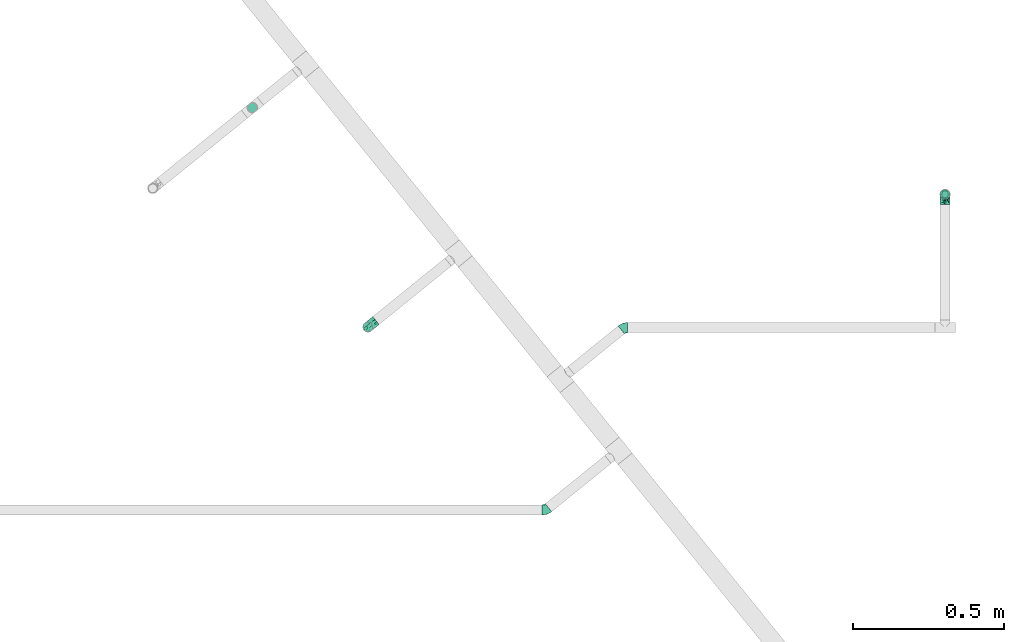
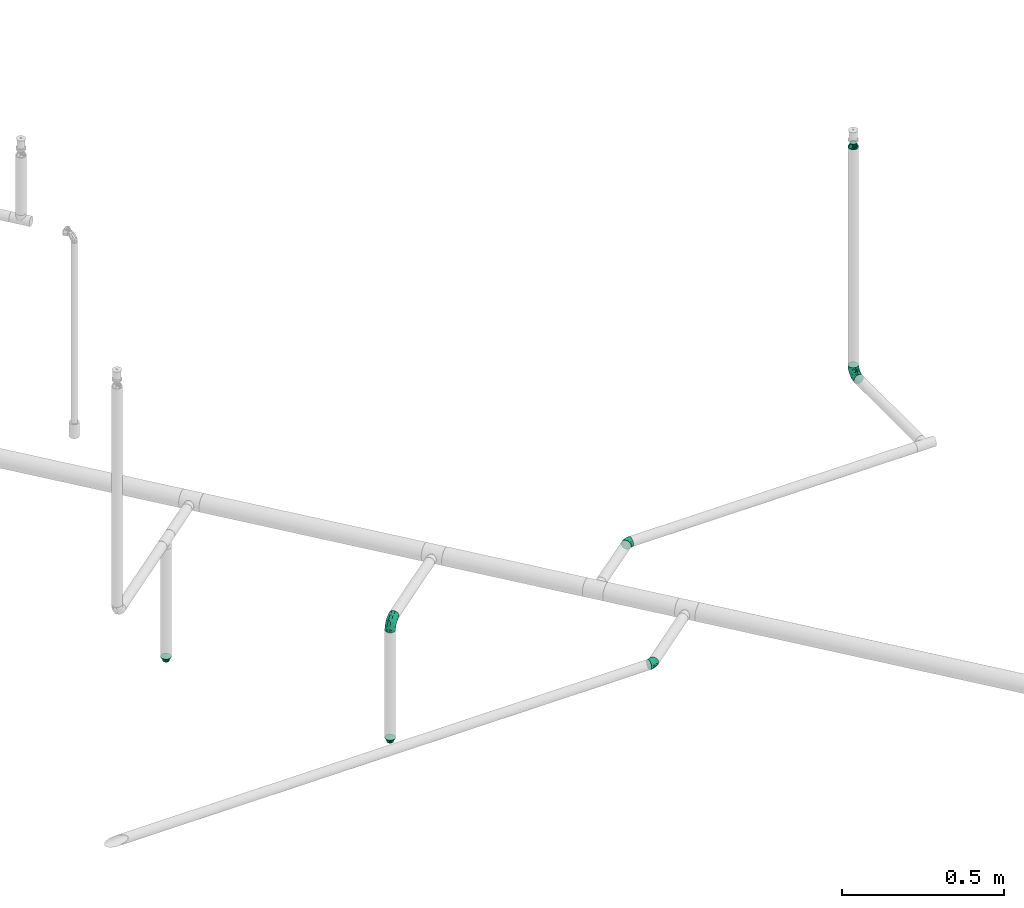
# One storey, part 70 of 94: 7 flow fittings.
"""IFC2X3 building model written with IfcOpenShell, lengths in millimetres."""

from ifc_helpers import new_model, entity, si_unit, converted_unit, derived_unit, direction, frame, origin_with_axes, place, context, subcontext, project, spatial, open_shell, surface_model, source, transform, mapped, type_object, element, save


model = new_model("IFC2X3")

# Units and contexts
model_context = context("Model", 3, precision=0.01, world=frame((0.0, 4.29681676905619e-09, 0.0)), true_north=direction((4.01073788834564e-13, 1.0)))
plan_context = context("Plan", 3, precision=0.01, world=frame((0.0, 4.29681676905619e-09, 0.0)), true_north=direction((4.01073788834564e-13, 1.0)))
body_context = subcontext(model_context, "Body", "Model", "MODEL_VIEW")
ifc_project = project(units=[converted_unit("PLANEANGLEUNIT", "DEGREE", entity("IfcPositiveLengthMeasure", 0.0174532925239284), si_unit("PLANEANGLEUNIT", "RADIAN"), dimensions=[0, 0, 0, 0, 0, 0, 0]), si_unit("AREAUNIT", "SQUARE_METRE"), si_unit("LENGTHUNIT", "METRE", prefix="MILLI"), si_unit("MASSUNIT", "GRAM", prefix="KILO"), si_unit("POWERUNIT", "WATT"), si_unit("PRESSUREUNIT", "PASCAL", prefix="KILO"), si_unit("FORCEUNIT", "NEWTON", prefix="KILO"), si_unit("ELECTRICVOLTAGEUNIT", "VOLT"), si_unit("ELECTRICCURRENTUNIT", "AMPERE"), si_unit("THERMODYNAMICTEMPERATUREUNIT", "DEGREE_CELSIUS"), si_unit("TIMEUNIT", "SECOND"), si_unit("VOLUMEUNIT", "CUBIC_METRE"), derived_unit("LINEARVELOCITYUNIT", [(si_unit("LENGTHUNIT", "METRE"), 1), (si_unit("TIMEUNIT", "SECOND"), -1)]), derived_unit("VOLUMETRICFLOWRATEUNIT", [(si_unit("VOLUMEUNIT", "CUBIC_METRE"), 1), (si_unit("TIMEUNIT", "SECOND"), -1)]), derived_unit("THERMALTRANSMITTANCEUNIT", [(si_unit("POWERUNIT", "WATT"), 1), (si_unit("THERMODYNAMICTEMPERATUREUNIT", "KELVIN"), -1), (si_unit("AREAUNIT", "SQUARE_METRE"), -1)]), derived_unit("SOUNDPRESSUREUNIT", [(si_unit("PRESSUREUNIT", "PASCAL"), 1)])], contexts=[model_context, plan_context])

# Site, building, storey
site_placement = place(None, frame((0.0, -4.29681676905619e-09, 0.0), z_axis=(0.0, 0.0, 1.0), x_axis=(1.0, 0.0, 0.0)))
site = spatial("IfcSite", under=ifc_project, at=site_placement, CompositionType="ELEMENT")
building_placement = place(site_placement, frame((0.0, 4.29681676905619e-09, 0.0), z_axis=(0.0, 0.0, 1.0), x_axis=(1.0, 0.0, 0.0)))
building = spatial("IfcBuilding", under=site, at=building_placement, Name="mc-building", CompositionType="ELEMENT")
storey_placement = place(building_placement, frame((0.0, 0.0, 210900.0), z_axis=(0.0, 0.0, 1.0), x_axis=(1.0, 0.0, 0.0)))
storey = spatial("IfcBuildingStorey", under=building, at=storey_placement, Name="Nivå F", CompositionType="ELEMENT", Elevation=210900.0)

# Flow fittings
pipe_fitting_type_1 = type_object("IfcPipeFittingType", Name="magi_pipe_fe_reducer_centric_short_NOR", PredefinedType="TRANSITION")
shared_shape_1 = source(origin_with_axes(), body_context, "Body", "SurfaceModel", [
    surface_model("IfcShellBasedSurfaceModel", [(14.4, 5.35, -9.26647), (14.4, 0.0, -10.7), (14.4, 2.76936, -10.33541), (14.4, 10.33541, -2.76936), (14.4, 7.56604, -7.56604), (14.4, -10.33541, -2.76936), (14.4, 9.26647, -5.35), (14.4, 0.0, 10.7), (14.4, -5.35, -9.26647), (14.4, -2.76936, -10.33541), (14.4, -7.56604, -7.56604), (14.4, -9.26647, -5.35), (14.4, 10.7, 0.0), (14.4, 10.33541, 2.76936), (14.4, 9.26647, 5.35), (14.4, 7.56604, 7.56604), (14.4, 2.76936, 10.33541), (14.4, 5.35, 9.26647), (14.4, -10.33541, 2.76936), (14.4, -7.56604, 7.56604), (14.4, -9.26647, 5.35), (14.4, -10.7, 0.0), (14.4, -2.76936, 10.33541), (14.4, -5.35, 9.26647), (12.4, 2.76936, 10.33541), (12.4, -10.33541, -2.76936), (12.4, 0.0, 10.7), (12.4, 5.35, 9.26647), (12.4, 7.56604, 7.56604), (12.4, 9.26647, 5.35), (12.4, 10.33541, 2.76936), (12.4, -10.33541, 2.76936), (12.4, -2.76936, 10.33541), (12.4, -7.56604, 7.56604), (12.4, -5.35, 9.26647), (12.4, -9.26647, 5.35), (12.4, -10.7, 0.0), (12.4, 10.33541, -2.76936), (12.4, 5.35, -9.26647), (12.4, 9.26647, -5.35), (12.4, 7.56604, -7.56604), (12.4, 2.76936, -10.33541), (12.4, -9.26647, -5.35), (12.4, -5.35, -9.26647), (12.4, -7.56604, -7.56604), (12.4, 0.0, -10.7), (12.4, -2.76936, -10.33541), (12.4, 10.7, 0.0), (-2.0, 11.9501, 11.9501), (-2.0, 0.0, 16.9), (-2.0, 4.37404, 16.32415), (-2.0, 8.45, 14.63583), (-2.0, 14.63583, 8.45), (-2.0, 16.32415, 4.37404), (-2.0, -16.32415, 4.37404), (-2.0, -8.45, 14.63583), (-2.0, -14.63583, 8.45), (-2.0, -11.9501, 11.9501), (-2.0, -4.37404, 16.32415), (-2.0, -16.32415, -4.37404), (-2.0, -16.9, 0.0), (-2.0, -8.45, -14.63583), (-2.0, 16.32415, -4.37404), (-2.0, 11.9501, -11.9501), (-2.0, 14.63583, -8.45), (-2.0, 8.45, -14.63583), (-2.0, 4.37404, -16.32415), (-2.0, 0.0, -16.9), (-2.0, -11.9501, -11.9501), (-2.0, -14.63583, -8.45), (-2.0, -4.37404, -16.32415), (-2.0, 16.9, 0.0), (0.0, 4.37404, -16.32415), (0.0, 8.45, -14.63583), (0.0, 11.9501, -11.9501), (0.0, 0.0, -16.9), (0.0, 16.32415, -4.37404), (0.0, 16.32415, 4.37404), (0.0, 14.63583, -8.45), (0.0, -8.45, -14.63583), (0.0, -4.37404, -16.32415), (0.0, -11.9501, -11.9501), (0.0, -16.32415, -4.37404), (0.0, -14.63583, -8.45), (0.0, -16.32415, 4.37404), (0.0, 16.9, 0.0), (0.0, 14.63583, 8.45), (0.0, 11.9501, 11.9501), (0.0, 4.37404, 16.32415), (0.0, 8.45, 14.63583), (0.0, 0.0, 16.9), (0.0, -14.63583, 8.45), (0.0, -16.9, 0.0), (0.0, -8.45, 14.63583), (0.0, -11.9501, 11.9501), (0.0, -4.37404, 16.32415), (12.4, 9.3625, -2.31662), (0.0, 14.42505, -5.97505), (0.0, 15.66253, -2.98753), (12.4, -6.6875, -6.94985), (0.0, -13.18758, -8.96258), (0.0, 2.98753, -15.66253), (12.4, 0.0, -9.26647), (12.4, 6.6875, -6.94985), (0.0, 8.96258, -13.18758), (12.4, -9.3625, -2.31662), (0.0, -15.66253, -2.98753), (0.0, -14.42505, -5.97505), (0.0, 5.97505, -14.42505), (0.0, -2.98753, -15.66253), (0.0, -8.96258, -13.18758), (0.0, 13.18758, -8.96258), (12.4, 8.025, -4.63324), (12.4, -2.675, -9.26647), (12.4, 2.675, -9.26647), (0.0, -5.97505, -14.42505), (12.4, -8.025, -4.63324), (12.4, -9.3625, 2.31662), (0.0, -14.42505, 5.97505), (0.0, -15.66253, 2.98753), (12.4, 6.6875, 6.94985), (0.0, 13.18758, 8.96258), (0.0, -2.98753, 15.66253), (12.4, 0.0, 9.26647), (12.4, -6.6875, 6.94985), (0.0, -8.96258, 13.18758), (12.4, 9.3625, 2.31662), (0.0, 15.66253, 2.98753), (0.0, 14.42505, 5.97505), (0.0, -5.97505, 14.42505), (0.0, 2.98753, 15.66253), (0.0, 8.96258, 13.18758), (0.0, -13.18758, 8.96258), (12.4, -8.025, 4.63324), (12.4, 2.675, 9.26647), (12.4, -2.675, 9.26647), (0.0, 5.97505, 14.42505), (12.4, 8.025, 4.63324)], [open_shell([[[0, 1, 2]], [[3, 0, 4]], [[5, 0, 3]], [[3, 4, 6]], [[7, 5, 3]], [[1, 8, 9]], [[1, 0, 8]], [[10, 5, 11]], [[5, 10, 8]], [[0, 5, 8]], [[3, 12, 13]], [[13, 14, 15]], [[13, 15, 16]], [[7, 3, 16]], [[16, 15, 17]], [[7, 18, 5]], [[18, 19, 20]], [[21, 5, 18]], [[19, 22, 23]], [[22, 19, 18]], [[7, 22, 18]], [[13, 16, 3]], [[24, 25, 26]], [[27, 25, 24]], [[28, 29, 30]], [[28, 25, 27]], [[31, 26, 25]], [[32, 33, 34]], [[33, 32, 31]], [[33, 31, 35]], [[32, 26, 31]], [[31, 25, 36]], [[30, 37, 28]], [[25, 28, 37]], [[38, 37, 39]], [[37, 38, 25]], [[38, 39, 40]], [[41, 25, 38]], [[42, 43, 44]], [[43, 42, 25]], [[43, 45, 46]], [[43, 25, 41]], [[41, 45, 43]], [[37, 30, 47]], [[25, 5, 36]], [[42, 11, 25]], [[8, 44, 43]], [[42, 44, 10]], [[9, 43, 46]], [[25, 11, 5]], [[5, 21, 36]], [[9, 8, 43]], [[10, 44, 8]], [[10, 11, 42]], [[1, 9, 46]], [[46, 45, 1]], [[41, 2, 45]], [[38, 0, 41]], [[6, 40, 39]], [[38, 40, 4]], [[3, 39, 37]], [[38, 4, 0]], [[0, 2, 41]], [[12, 3, 37]], [[6, 39, 3]], [[6, 4, 40]], [[47, 12, 37]], [[45, 2, 1]], [[30, 13, 47]], [[29, 14, 30]], [[17, 28, 27]], [[29, 28, 15]], [[16, 27, 24]], [[30, 14, 13]], [[13, 12, 47]], [[16, 17, 27]], [[15, 28, 17]], [[15, 14, 29]], [[7, 16, 24]], [[24, 26, 7]], [[32, 22, 26]], [[34, 23, 32]], [[20, 33, 35]], [[34, 33, 19]], [[18, 35, 31]], [[34, 19, 23]], [[23, 22, 32]], [[21, 18, 31]], [[20, 35, 18]], [[20, 19, 33]], [[36, 21, 31]], [[26, 22, 7]], [[48, 49, 50]], [[48, 50, 51]], [[48, 52, 53]], [[48, 53, 49]], [[49, 53, 54]], [[55, 56, 57]], [[55, 58, 49]], [[56, 55, 49]], [[49, 54, 56]], [[54, 59, 60]], [[54, 53, 61]], [[53, 62, 63]], [[63, 62, 64]], [[63, 65, 66]], [[61, 53, 63]], [[67, 63, 66]], [[59, 68, 69]], [[68, 59, 61]], [[61, 67, 70]], [[59, 54, 61]], [[63, 67, 61]], [[53, 71, 62]], [[72, 73, 74]], [[75, 72, 74]], [[74, 76, 77]], [[76, 74, 78]], [[74, 77, 79]], [[75, 79, 80]], [[75, 74, 79]], [[81, 82, 83]], [[82, 81, 79]], [[79, 84, 82]], [[77, 76, 85]], [[77, 86, 87]], [[77, 87, 88]], [[88, 84, 79]], [[88, 87, 89]], [[84, 88, 90]], [[90, 91, 84]], [[92, 82, 84]], [[91, 93, 94]], [[91, 90, 93]], [[93, 90, 95]], [[79, 77, 88]], [[59, 82, 60]], [[69, 83, 59]], [[79, 68, 61]], [[69, 68, 81]], [[80, 61, 70]], [[59, 83, 82]], [[82, 92, 60]], [[80, 79, 61]], [[81, 68, 79]], [[81, 83, 69]], [[75, 80, 70]], [[70, 67, 75]], [[66, 72, 67]], [[65, 73, 66]], [[78, 63, 64]], [[65, 63, 74]], [[76, 64, 62]], [[65, 74, 73]], [[73, 72, 66]], [[85, 76, 62]], [[78, 64, 76]], [[78, 74, 63]], [[71, 85, 62]], [[67, 72, 75]], [[53, 77, 71]], [[52, 86, 53]], [[89, 48, 51]], [[52, 48, 87]], [[88, 51, 50]], [[53, 86, 77]], [[77, 85, 71]], [[88, 89, 51]], [[87, 48, 89]], [[87, 86, 52]], [[90, 88, 50]], [[50, 49, 90]], [[58, 95, 49]], [[55, 93, 58]], [[91, 57, 56]], [[55, 57, 94]], [[84, 56, 54]], [[55, 94, 93]], [[93, 95, 58]], [[92, 84, 54]], [[91, 56, 84]], [[91, 94, 57]], [[60, 92, 54]], [[49, 95, 90]], [[27, 34, 47]], [[47, 34, 43]], [[43, 38, 47]], [[43, 34, 36]], [[90, 87, 94]], [[92, 94, 87]], [[87, 74, 92]], [[75, 92, 74]], [[81, 92, 75]], [[74, 87, 85]], [[96, 97, 98]], [[81, 99, 100]], [[101, 102, 75]], [[98, 85, 47]], [[74, 103, 104]], [[104, 103, 38]], [[105, 106, 107]], [[38, 108, 104]], [[102, 109, 75]], [[110, 99, 81]], [[47, 96, 98]], [[103, 111, 112]], [[109, 102, 113]], [[36, 92, 106]], [[102, 101, 114]], [[110, 115, 43]], [[96, 112, 97]], [[107, 116, 105]], [[36, 106, 105]], [[113, 115, 109]], [[43, 115, 113]], [[116, 107, 100]], [[108, 38, 114]], [[111, 103, 74]], [[111, 97, 112]], [[99, 110, 43]], [[116, 100, 99]], [[101, 108, 114]], [[117, 118, 119]], [[87, 120, 121]], [[122, 123, 90]], [[119, 92, 36]], [[94, 124, 125]], [[125, 124, 34]], [[126, 127, 128]], [[34, 129, 125]], [[123, 130, 90]], [[131, 120, 87]], [[36, 117, 119]], [[124, 132, 133]], [[130, 123, 134]], [[47, 85, 127]], [[123, 122, 135]], [[131, 136, 27]], [[117, 133, 118]], [[128, 137, 126]], [[47, 127, 126]], [[134, 136, 130]], [[27, 136, 134]], [[137, 128, 121]], [[129, 34, 135]], [[132, 124, 94]], [[132, 118, 133]], [[120, 131, 27]], [[137, 121, 120]], [[122, 129, 135]]])]),
])
for number, where, z_axis, x_axis, name in (
    (1, (726826.19319, 441839.19005, 3059.35200000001), (-0.000893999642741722, -0.99999960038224, 0.0), (0.0, 0.0, -1.0), "magi_pipe_fe_reducer_centric_short_NOR"),
    (2, (727207.79471, 441114.63274, 3059.35200000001), (-0.000893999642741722, -0.99999960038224, 0.0), (0.0, 0.0, -1.0), "magi_pipe_fe_reducer_centric_short_NOR"),
    (3, (729113.64461, 441552.69714, 4357.64799999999), (-0.000893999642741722, -0.99999960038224, 0.0), (0.0, 0.0, 1.0), "magi_pipe_fe_reducer_centric_short_NOR"),
):
    element("IfcFlowFitting", number, at=place(storey_placement, frame(where, z_axis=z_axis, x_axis=x_axis)), inside=storey, type_object=pipe_fitting_type_1, Name=name, context=body_context, shape_type="MappedRepresentation", body=[
        mapped(shared_shape_1, transform((0.0, 0.0, 0.0), scale=1.0)),
    ])
pipe_fitting_type_2 = type_object("IfcPipeFittingType", Name="magi_pipe_fe_elbow_short_001", PredefinedType="BEND")
shared_shape_2 = source(origin_with_axes(), body_context, "Body", "SurfaceModel", [
    surface_model("IfcShellBasedSurfaceModel", [(-33.8, 8.45, -14.63583), (-33.8, 4.37404, -16.32415), (-33.8, 11.9501, -11.9501), (-33.8, -11.9501, -11.9501), (-33.8, -14.63583, -8.45), (-33.8, -8.45, -14.63583), (-33.8, 0.0, -16.9), (-33.8, -4.37404, -16.32415), (-33.8, -4.37404, 16.32415), (-33.8, 0.0, 16.9), (-33.8, -8.45, 14.63583), (-33.8, 16.32415, -4.37404), (-33.8, 14.63583, -8.45), (-33.8, -16.32415, -4.37404), (-33.8, -16.9, 0.0), (-33.8, -16.32415, 4.37404), (-33.8, 11.9501, 11.9501), (-33.8, 14.63583, 8.45), (-33.8, 16.32415, 4.37404), (-33.8, 4.37404, 16.32415), (-33.8, 8.45, 14.63583), (-33.8, -14.63583, 8.45), (-33.8, -11.9501, 11.9501), (-33.8, 16.9, 0.0), (-11.9501, 33.8, -11.9501), (0.0, 33.8, -16.9), (-4.37404, 33.8, -16.32415), (-8.45, 33.8, -14.63583), (-14.63583, 33.8, -8.45), (-16.32415, 33.8, -4.37404), (14.63583, 33.8, -8.45), (8.45, 33.8, 14.63583), (16.32415, 33.8, -4.37404), (8.45, 33.8, -14.63583), (11.9501, 33.8, -11.9501), (4.37404, 33.8, -16.32415), (16.32415, 33.8, 4.37404), (16.9, 33.8, 0.0), (-11.9501, 33.8, 11.9501), (-16.32415, 33.8, 4.37404), (-14.63583, 33.8, 8.45), (-8.45, 33.8, 14.63583), (-4.37404, 33.8, 16.32415), (11.9501, 33.8, 11.9501), (14.63583, 33.8, 8.45), (0.0, 33.8, 16.9), (4.37404, 33.8, 16.32415), (-16.9, 33.8, 0.0), (-24.79389, -13.12945, 9.48721), (-22.19287, -9.75018, 12.59315), (-24.09897, -14.97035, 0.0), (-14.93934, -10.76256, 8.5297), (-22.46095, -14.75051, 5.27077), (14.75051, 22.46094, 5.27077), (11.9251, 13.23888, 4.33236), (13.04069, 14.39795, 0.0), (7.71387, 13.68847, 11.55891), (9.75018, 22.19287, 12.59315), (4.10169, 13.0571, 14.04018), (-24.84007, -6.39063, 15.2048), (-25.81779, -2.23879, 16.61097), (-23.66549, 2.59054, 16.87119), (-26.50418, 14.06512, 11.08152), (-24.21253, 17.66365, 7.72657), (-29.58514, 15.86957, 7.00283), (-6.17382, -7.5455, 0.0), (-13.23888, -11.9251, 4.33236), (-14.39795, -13.04069, 0.0), (-17.81434, 18.87373, 11.97104), (-6.30846, 29.15138, 15.82987), (-2.31622, 25.28002, 16.85849), (-29.23923, 10.23435, 13.77053), (-1.45439, -2.85688, 7.61475), (-0.28326, 0.34872, 10.09509), (-5.74484, -4.04709, 10.4122), (-4.41137, 11.31918, 16.59407), (-8.39727, 3.10034, 15.7812), (-1.72649, 9.1306, 15.53089), (-17.39909, 24.75344, 7.64977), (-26.19233, 20.0512, 0.0), (-28.14518, 17.29657, 4.25857), (-26.05147, 6.6281, 15.96447), (-5.87354, 16.61944, 16.86968), (-12.51807, 12.51807, 16.48937), (-10.06312, 7.38516, 16.81295), (-3.01882, 3.01882, 13.81718), (-13.0571, -4.10169, 14.04018), (-16.82553, -0.15166, 16.38038), (10.76256, 14.93934, 8.5297), (13.12945, 24.79389, 9.48721), (6.39063, 24.84007, 15.2048), (2.23879, 25.81779, 16.61097), (-13.68847, -7.71387, 11.55891), (14.97035, 24.09897, 0.0), (-7.30894, 22.89991, 16.09489), (-10.67958, 26.17414, 14.008), (-12.78295, 18.26924, 15.06066), (-13.88562, 22.45231, 12.93244), (-18.04944, 15.16501, 14.04434), (-23.11658, 20.08178, 4.02986), (-21.84989, 21.84989, 0.0), (-18.55817, 25.48277, 3.93065), (-13.95142, 26.94732, 11.03289), (-18.57098, 7.23906, 16.59756), (-16.58335, 4.14122, 16.89279), (-17.96666, 11.46709, 15.63151), (-9.84453, 17.54304, 16.18938), (0.15166, 16.82553, 16.38038), (-23.27207, 11.47201, 14.23154), (3.84842, 5.86994, 10.70473), (-8.0212, -7.54413, 7.93275), (1.00345, -2.19508, 4.57414), (5.13203, 3.01004, 5.90201), (5.24161, 1.7543, 2.53265), (8.70457, 7.04947, 3.99182), (-20.0512, 26.19233, 0.0), (8.4852, 8.76699, 7.09296), (-4.55488, -6.72064, 4.90681), (2.05031, -2.05031, 0.0), (7.5455, 6.17382, 0.0), (-26.75399, 2.1369, -16.845), (-14.61995, 24.73803, -11.27736), (-28.45274, -13.45335, -9.81895), (-26.00469, 6.63555, -15.96645), (-23.06726, 20.04573, -4.26202), (-13.80647, -4.26506, -14.17873), (-14.67501, -0.21081, -16.07388), (-6.7902, -0.2828, -13.8478), (-24.53586, 11.08096, -14.13417), (-26.72048, 14.00837, -11.05776), (10.0967, 24.44989, -12.75976), (5.83237, 21.40218, -15.03047), (6.66249, 28.54238, -15.38093), (-20.38182, 15.48705, -12.74596), (12.53268, 21.23441, -9.15363), (12.54494, 15.67504, -5.54878), (9.7522, 12.89279, -8.66343), (-15.65186, 19.64213, -13.01327), (-12.03528, 20.66498, -14.67665), (-15.61907, 15.61906, -14.83879), (-25.56551, -15.26206, 0.0), (-24.65452, -15.12934, -5.50955), (13.45335, 28.45274, -9.81895), (15.12934, 24.65452, -5.50955), (-7.35442, -8.31014, -5.65563), (-15.67504, -12.54494, -5.54878), (-24.44989, -10.0967, -12.75976), (0.16522, 0.41303, -9.71728), (-5.70658, -5.33066, -8.89288), (-5.13869, -2.37198, -11.53565), (-21.23441, -12.53268, -9.15363), (0.71146, 7.93863, -14.09382), (0.21081, 14.67501, -16.07388), (3.49291, 14.42772, -14.76381), (-24.89911, -2.13088, -16.591), (-28.54238, -6.66249, -15.38093), (-18.44386, -7.71663, -13.26957), (2.13088, 24.89911, -16.591), (-28.64342, 17.44413, -2.89318), (1.70017, -1.28722, -5.09504), (-16.57067, 26.81947, -7.36596), (-17.69055, 27.4263, -3.76405), (-12.89279, -9.7522, -8.66343), (-5.96611, 5.96611, -15.95814), (-20.53709, 20.09345, -8.28985), (-2.1369, 26.75399, -16.845), (-6.89872, 24.58781, -16.02578), (-10.60739, 26.53157, -13.98044), (-21.40218, -5.83237, -15.03047), (2.93192, 5.89627, -11.55917), (6.89393, 12.61842, -11.82233), (5.58056, 5.95325, -8.79455), (-3.99512, 18.61798, -16.89635), (8.31014, 7.35442, -5.65563), (-9.1383, 9.86148, -16.89041), (-9.99983, 16.02119, -16.39699), (-16.68576, 9.78031, -16.34199), (-27.01915, 16.61158, -7.12979), (15.26206, 25.56551, 0.0), (-18.61798, 3.99512, -16.89635), (-19.37495, 27.82495, 0.0), (-12.61842, -6.89393, -11.82233), (-18.84705, 19.14018, -10.96545)], [open_shell([[[0, 1, 2]], [[3, 4, 5]], [[6, 7, 5]], [[8, 9, 10]], [[1, 6, 2]], [[11, 12, 2]], [[4, 2, 6]], [[2, 13, 10]], [[5, 4, 6]], [[2, 4, 13]], [[14, 15, 13]], [[11, 2, 16]], [[11, 17, 18]], [[11, 16, 17]], [[19, 20, 16]], [[16, 2, 10]], [[19, 16, 10]], [[21, 22, 15]], [[22, 13, 15]], [[22, 10, 13]], [[10, 9, 19]], [[11, 18, 23]], [[24, 25, 26]], [[24, 26, 27]], [[24, 28, 29]], [[25, 24, 30]], [[31, 32, 24]], [[33, 30, 34]], [[33, 35, 25]], [[25, 30, 33]], [[32, 30, 24]], [[32, 36, 37]], [[38, 24, 29]], [[39, 40, 29]], [[40, 38, 29]], [[38, 41, 42]], [[38, 31, 24]], [[31, 38, 42]], [[36, 43, 44]], [[36, 32, 43]], [[31, 45, 46]], [[32, 31, 43]], [[42, 45, 31]], [[39, 29, 47]], [[22, 48, 49]], [[15, 14, 50]], [[51, 48, 52]], [[53, 54, 55]], [[48, 22, 21]], [[15, 52, 21]], [[56, 57, 58]], [[49, 10, 22]], [[49, 59, 10]], [[9, 60, 61]], [[62, 63, 64]], [[65, 66, 67]], [[57, 43, 31]], [[62, 68, 63]], [[42, 69, 70]], [[20, 71, 16]], [[8, 60, 9]], [[72, 73, 74]], [[75, 76, 77]], [[16, 62, 17]], [[40, 39, 78]], [[79, 23, 80]], [[64, 18, 17]], [[9, 61, 19]], [[19, 81, 20]], [[82, 83, 84]], [[74, 85, 86]], [[59, 86, 87]], [[88, 89, 57]], [[90, 31, 46]], [[44, 53, 36]], [[46, 45, 91]], [[54, 53, 88]], [[44, 89, 53]], [[92, 86, 49]], [[89, 44, 43]], [[10, 59, 8]], [[53, 55, 93]], [[93, 36, 53]], [[66, 52, 67]], [[94, 82, 70]], [[95, 96, 94]], [[97, 98, 96]], [[79, 99, 100]], [[41, 38, 95]], [[101, 100, 99]], [[68, 78, 63]], [[42, 41, 69]], [[23, 18, 80]], [[95, 94, 69]], [[78, 101, 99]], [[38, 102, 95]], [[70, 45, 42]], [[97, 95, 102]], [[15, 50, 52]], [[90, 57, 31]], [[57, 90, 58]], [[81, 19, 61]], [[103, 104, 84]], [[105, 81, 103]], [[38, 40, 102]], [[106, 96, 83]], [[94, 106, 82]], [[91, 70, 107]], [[71, 62, 16]], [[62, 108, 98]], [[86, 59, 49]], [[67, 52, 50]], [[60, 59, 87]], [[92, 49, 51]], [[86, 85, 76]], [[91, 90, 46]], [[37, 36, 93]], [[107, 77, 58]], [[107, 58, 90]], [[58, 85, 109]], [[110, 74, 92]], [[72, 74, 110]], [[66, 51, 52]], [[72, 111, 112]], [[113, 114, 112]], [[56, 88, 57]], [[52, 48, 21]], [[49, 48, 51]], [[57, 89, 43]], [[53, 89, 88]], [[103, 81, 61]], [[71, 81, 108]], [[18, 64, 80]], [[63, 78, 99]], [[47, 115, 101]], [[101, 115, 100]], [[40, 78, 102]], [[68, 102, 78]], [[97, 96, 95]], [[105, 98, 108]], [[103, 84, 83]], [[107, 70, 82]], [[76, 84, 87]], [[82, 84, 75]], [[70, 91, 45]], [[90, 91, 107]], [[59, 60, 8]], [[61, 60, 87]], [[73, 85, 74]], [[109, 112, 116]], [[103, 61, 104]], [[105, 103, 83]], [[96, 105, 83]], [[81, 105, 108]], [[96, 98, 105]], [[62, 98, 68]], [[61, 87, 104]], [[87, 84, 104]], [[86, 76, 87]], [[77, 76, 85]], [[58, 77, 85]], [[75, 77, 107]], [[82, 75, 107]], [[76, 75, 84]], [[81, 71, 20]], [[62, 71, 108]], [[95, 69, 41]], [[70, 69, 94]], [[62, 64, 17]], [[80, 63, 99]], [[63, 80, 64]], [[80, 99, 79]], [[66, 65, 117]], [[110, 66, 117]], [[112, 114, 116]], [[118, 117, 65]], [[110, 92, 51]], [[112, 111, 113]], [[119, 55, 54]], [[74, 86, 92]], [[58, 109, 56]], [[116, 56, 109]], [[66, 110, 51]], [[72, 110, 117]], [[111, 72, 117]], [[73, 112, 109]], [[117, 118, 111]], [[113, 111, 118]], [[118, 119, 113]], [[114, 119, 54]], [[119, 114, 113]], [[116, 54, 88]], [[54, 116, 114]], [[116, 88, 56]], [[112, 73, 72]], [[85, 73, 109]], [[78, 39, 101]], [[47, 101, 39]], [[102, 68, 97]], [[97, 68, 98]], [[82, 106, 83]], [[94, 96, 106]], [[1, 120, 6]], [[28, 24, 121]], [[3, 122, 4]], [[0, 123, 1]], [[100, 124, 79]], [[125, 126, 127]], [[128, 2, 129]], [[130, 131, 132]], [[128, 129, 133]], [[134, 135, 136]], [[137, 138, 139]], [[128, 0, 2]], [[67, 140, 141]], [[134, 142, 143]], [[141, 13, 4]], [[144, 65, 145]], [[146, 3, 5]], [[147, 148, 149]], [[145, 141, 150]], [[151, 152, 153]], [[154, 7, 6]], [[5, 155, 146]], [[150, 146, 156]], [[155, 5, 7]], [[143, 135, 134]], [[35, 157, 25]], [[23, 79, 158]], [[148, 159, 144]], [[160, 161, 29]], [[145, 162, 144]], [[163, 152, 151]], [[29, 28, 160]], [[121, 164, 160]], [[33, 34, 130]], [[25, 165, 26]], [[26, 165, 166]], [[142, 34, 30]], [[24, 27, 167]], [[124, 161, 164]], [[157, 35, 132]], [[155, 154, 168]], [[123, 0, 128]], [[169, 170, 171]], [[172, 157, 152]], [[26, 166, 27]], [[132, 35, 33]], [[142, 130, 34]], [[168, 154, 126]], [[136, 135, 173]], [[133, 137, 139]], [[2, 12, 129]], [[170, 131, 130]], [[30, 32, 143]], [[172, 174, 175]], [[176, 123, 128]], [[158, 177, 11]], [[135, 55, 119]], [[167, 27, 166]], [[175, 166, 172]], [[137, 167, 138]], [[122, 141, 4]], [[140, 14, 13]], [[32, 37, 178]], [[170, 130, 134]], [[152, 157, 131]], [[165, 157, 172]], [[153, 170, 151]], [[152, 163, 174]], [[168, 125, 156]], [[122, 146, 150]], [[120, 154, 6]], [[179, 174, 126]], [[179, 126, 154]], [[126, 163, 127]], [[162, 145, 150]], [[140, 13, 141]], [[32, 178, 143]], [[55, 143, 178]], [[177, 129, 12]], [[128, 133, 139]], [[176, 128, 139]], [[120, 123, 179]], [[121, 160, 28]], [[161, 100, 180]], [[166, 175, 138]], [[121, 24, 167]], [[161, 47, 29]], [[79, 124, 158]], [[124, 164, 177]], [[161, 124, 100]], [[136, 171, 170]], [[127, 163, 151]], [[147, 171, 159]], [[148, 144, 162]], [[127, 151, 169]], [[127, 181, 125]], [[129, 177, 164]], [[12, 11, 177]], [[159, 65, 144]], [[67, 141, 145]], [[143, 55, 135]], [[135, 119, 173]], [[123, 120, 1]], [[154, 120, 179]], [[157, 165, 25]], [[166, 165, 172]], [[172, 152, 174]], [[176, 139, 175]], [[126, 174, 163]], [[176, 174, 179]], [[174, 176, 175]], [[123, 176, 179]], [[150, 181, 162]], [[127, 149, 181]], [[181, 148, 162]], [[159, 148, 147]], [[171, 136, 173]], [[170, 134, 136]], [[159, 171, 173]], [[171, 147, 169]], [[169, 147, 149]], [[151, 170, 169]], [[164, 182, 129]], [[182, 121, 137]], [[181, 149, 148]], [[169, 149, 127]], [[182, 137, 133]], [[167, 137, 121]], [[166, 138, 167]], [[175, 139, 138]], [[129, 182, 133]], [[121, 182, 164]], [[161, 160, 164]], [[47, 161, 180]], [[177, 158, 124]], [[23, 158, 11]], [[130, 132, 33]], [[157, 132, 131]], [[143, 142, 30]], [[130, 142, 134]], [[154, 155, 7]], [[146, 155, 168]], [[146, 122, 3]], [[141, 122, 150]], [[152, 131, 153]], [[159, 119, 118]], [[67, 145, 65]], [[170, 153, 131]], [[119, 159, 173]], [[159, 118, 65]], [[156, 125, 181]], [[126, 125, 168]], [[150, 156, 181]], [[168, 156, 146]]])]),
])
for number, where, z_axis, x_axis, name in (
    (4, (727207.79471, 441114.63274, 3500.0), (0.629320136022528, -0.777146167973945, 0.0), (-0.777146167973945, -0.629320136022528, 0.0), "magi_pipe_fe_elbow_short_001"),
    (5, (729113.64461, 441552.69714, 3500.0), (1.0, 0.0, 0.0), (0.0, 1.0, 0.0), "magi_pipe_fe_elbow_short_001"),
):
    element("IfcFlowFitting", number, at=place(storey_placement, frame(where, z_axis=z_axis, x_axis=x_axis)), inside=storey, type_object=pipe_fitting_type_2, Name=name, context=body_context, shape_type="MappedRepresentation", body=[
        mapped(shared_shape_2, transform((0.0, 0.0, 0.0), scale=1.0)),
    ])
shared_shape_3 = source(origin_with_axes(), body_context, "Body", "SurfaceModel", [
    surface_model("IfcShellBasedSurfaceModel", [(-11.96921, 4.37404, -16.32415), (-11.96921, 0.0, -16.9), (-11.96921, 11.9501, -11.9501), (-11.96921, 8.45, -14.63583), (-11.96921, 16.32415, -4.37404), (-11.96921, 14.63583, -8.45), (-11.96921, -14.63583, -8.45), (-11.96921, -16.32415, -4.37404), (-11.96921, -8.45, 14.63583), (-11.96921, -11.9501, -11.9501), (-11.96921, -8.45, -14.63583), (-11.96921, -4.37404, -16.32415), (-11.96921, -16.9, 0.0), (-11.96921, -16.32415, 4.37404), (-11.96921, 11.9501, 11.9501), (-11.96921, 16.32415, 4.37404), (-11.96921, 14.63583, 8.45), (-11.96921, 4.37404, 16.32415), (-11.96921, 8.45, 14.63583), (-11.96921, -14.63583, 8.45), (-11.96921, -11.9501, 11.9501), (-11.96921, -4.37404, 16.32415), (-11.96921, 0.0, 16.9), (-11.96921, 16.9, 0.0), (1.78138, 16.81944, -11.9501), (9.30182, 7.53247, -16.9), (6.54915, 10.93174, -16.32415), (3.98406, 14.09935, -14.63583), (0.0912, 18.90664, -8.45), (-0.9713, 20.21871, -4.37404), (19.57494, -5.15378, -4.37404), (14.61958, 0.96558, 14.63583), (14.61958, 0.96558, -14.63583), (16.82227, -1.75451, -11.9501), (12.0545, 4.1332, -16.32415), (18.51245, -3.84171, -8.45), (16.82227, -1.75451, 11.9501), (19.93734, -5.6013, 0.0), (-1.33369, 20.66623, 0.0), (-0.9713, 20.21871, 4.37404), (1.78138, 16.81944, 11.9501), (0.0912, 18.90664, 8.45), (3.98406, 14.09935, 14.63583), (6.54915, 10.93174, 16.32415), (9.30182, 7.53247, 16.9), (19.57494, -5.15378, 4.37404), (18.51245, -3.84171, 8.45), (12.0545, 4.1332, 16.32415), (-4.59731, -13.05133, 9.99471), (1.68658, -4.76274, 15.33195), (-5.85866, -6.28919, 15.4925), (-2.48763, -9.63675, 13.11426), (11.78625, -7.2496, 9.99471), (-3.55203, -1.6588, 16.69187), (-3.5072, -15.44596, 0.0), (0.62477, -15.07642, 2.7613), (-5.81148, -16.25621, 2.98921), (-1.22483, 3.45883, 16.82289), (1.03738, 7.50197, 16.30051), (-1.95294, -14.77956, 5.9938), (3.94745, -11.14726, 9.63812), (8.51095, -1.20065, 15.4925), (-3.98868, 11.26369, 13.70221), (-4.77795, 14.43949, 10.61907), (13.28372, -9.8157, 3.17643), (10.8188, -10.25685, 5.9938), (7.34486, -12.74449, 3.20825), (4.58378, -12.94419, 6.02768), (-5.84732, 16.51233, 6.8254), (-6.20305, 17.51687, 3.53544), (-4.74345, 7.03435, 15.76992), (4.63826, 1.41552, 16.69965), (7.99786, -5.92365, 13.11426), (12.44607, -9.79661, 0.0), (-6.32787, 17.86936, 0.0), (4.9548, -13.99192, 0.0), (-0.30537, 10.22742, 15.14484), (-4.49542, -1.81888, -16.69965), (-4.14617, -15.98795, -3.17643), (-1.95294, -14.77956, -5.9938), (2.31234, -14.5266, -3.20825), (3.80436, 0.94623, -16.69187), (-5.52734, 5.17728, -16.30051), (-5.3739, 14.22845, -10.61907), (-3.98868, 11.26369, -13.70221), (4.58378, -12.94419, -6.02768), (9.00236, -12.10976, -2.7613), (10.8188, -10.25685, -5.9938), (-6.20305, 17.51687, -3.53544), (-5.84732, 16.51233, -6.8254), (7.99786, -5.92365, -13.11426), (-0.74051, 8.45187, -15.76992), (-6.19901, 8.14037, -15.14484), (1.68658, -4.76274, -15.33195), (-1.22483, 3.45883, -16.82289), (-4.59731, -13.05133, -9.99471), (-2.48763, -9.63675, -13.11426), (3.94745, -11.14726, -9.63812), (-5.85866, -6.28919, -15.4925), (8.51095, -1.20065, -15.4925), (14.74673, -8.97617, -2.98921), (11.78625, -7.2496, -9.99471)], [open_shell([[[0, 1, 2]], [[3, 0, 2]], [[4, 5, 2]], [[6, 2, 1]], [[2, 7, 8]], [[9, 6, 10]], [[1, 11, 10]], [[1, 10, 6]], [[6, 7, 2]], [[12, 13, 7]], [[4, 2, 14]], [[14, 15, 4]], [[16, 15, 14]], [[17, 18, 14]], [[2, 8, 14]], [[17, 14, 8]], [[19, 20, 13]], [[13, 20, 7]], [[21, 22, 8]], [[20, 8, 7]], [[8, 22, 17]], [[23, 4, 15]], [[24, 25, 26]], [[24, 26, 27]], [[24, 28, 29]], [[25, 24, 30]], [[31, 30, 24]], [[32, 30, 33]], [[30, 32, 34]], [[33, 30, 35]], [[34, 25, 30]], [[30, 36, 37]], [[38, 24, 29]], [[24, 39, 40]], [[40, 39, 41]], [[40, 42, 43]], [[40, 31, 24]], [[44, 40, 43]], [[45, 36, 46]], [[37, 36, 45]], [[31, 44, 47]], [[30, 31, 36]], [[40, 44, 31]], [[39, 24, 38]], [[19, 48, 20]], [[49, 50, 51]], [[8, 20, 51]], [[46, 36, 52]], [[22, 21, 53]], [[21, 8, 50]], [[54, 55, 56]], [[53, 57, 22]], [[22, 57, 17]], [[43, 58, 44]], [[48, 59, 60]], [[31, 47, 61]], [[62, 63, 14]], [[62, 14, 18]], [[64, 65, 66]], [[67, 59, 55]], [[42, 40, 62]], [[15, 68, 69]], [[19, 13, 59]], [[23, 15, 69]], [[15, 16, 68]], [[48, 51, 20]], [[70, 62, 18]], [[18, 17, 70]], [[12, 54, 56]], [[66, 67, 55]], [[71, 57, 53]], [[31, 72, 36]], [[14, 63, 16]], [[71, 47, 44]], [[41, 39, 68]], [[65, 46, 52]], [[58, 70, 57]], [[72, 31, 61]], [[63, 68, 16]], [[73, 64, 66]], [[57, 71, 44]], [[17, 57, 70]], [[69, 68, 39]], [[74, 69, 38]], [[60, 72, 51]], [[49, 51, 72]], [[75, 55, 54]], [[58, 43, 76]], [[49, 61, 71]], [[41, 63, 40]], [[68, 63, 41]], [[40, 63, 62]], [[76, 70, 58]], [[50, 53, 21]], [[45, 64, 37]], [[45, 46, 65]], [[49, 71, 53]], [[60, 52, 72]], [[59, 48, 19]], [[51, 48, 60]], [[72, 52, 36]], [[65, 52, 60]], [[51, 50, 8]], [[53, 50, 49]], [[71, 61, 47]], [[72, 61, 49]], [[66, 55, 75]], [[56, 59, 13]], [[73, 66, 75]], [[66, 65, 67]], [[37, 64, 73]], [[45, 65, 64]], [[65, 60, 67]], [[60, 59, 67]], [[59, 56, 55]], [[12, 56, 13]], [[38, 69, 39]], [[23, 69, 74]], [[44, 58, 57]], [[76, 43, 42]], [[42, 62, 76]], [[62, 70, 76]], [[11, 1, 77]], [[78, 79, 80]], [[25, 34, 81]], [[0, 82, 1]], [[83, 84, 2]], [[80, 85, 86]], [[5, 83, 2]], [[35, 30, 87]], [[4, 88, 89]], [[32, 33, 90]], [[27, 26, 91]], [[82, 0, 92]], [[54, 78, 80]], [[93, 77, 81]], [[94, 77, 1]], [[95, 79, 6]], [[10, 96, 9]], [[97, 95, 96]], [[7, 6, 79]], [[9, 95, 6]], [[98, 10, 11]], [[97, 96, 90]], [[75, 86, 73]], [[99, 81, 34]], [[23, 74, 88]], [[83, 89, 28]], [[38, 29, 88]], [[89, 83, 5]], [[73, 86, 100]], [[89, 5, 4]], [[83, 24, 84]], [[98, 96, 10]], [[91, 84, 27]], [[94, 81, 77]], [[92, 91, 82]], [[2, 84, 3]], [[85, 87, 86]], [[25, 94, 26]], [[99, 34, 32]], [[24, 27, 84]], [[101, 90, 33]], [[90, 93, 99]], [[87, 97, 101]], [[93, 98, 77]], [[37, 73, 100]], [[24, 83, 28]], [[26, 94, 91]], [[101, 33, 35]], [[93, 90, 96]], [[94, 25, 81]], [[82, 91, 94]], [[88, 29, 89]], [[29, 28, 89]], [[7, 78, 12]], [[96, 95, 9]], [[79, 95, 97]], [[87, 101, 35]], [[90, 101, 97]], [[77, 98, 11]], [[96, 98, 93]], [[90, 99, 32]], [[81, 99, 93]], [[80, 86, 75]], [[100, 87, 30]], [[54, 80, 75]], [[80, 79, 85]], [[12, 78, 54]], [[7, 79, 78]], [[79, 97, 85]], [[97, 87, 85]], [[87, 100, 86]], [[37, 100, 30]], [[23, 88, 4]], [[38, 88, 74]], [[1, 82, 94]], [[92, 0, 3]], [[3, 84, 92]], [[84, 91, 92]]])]),
])
for number, where, z_axis, x_axis, name in (
    (6, (728053.64461, 441112.69714, 3500.0), (0.0, 0.0, 1.0), (-1.0, 0.0, 0.0), "magi_pipe_fe_elbow_short_001"),
    (7, (727794.5926, 440510.4939, 3500.0), (0.0, 0.0, 1.0), (1.0, 0.0, 0.0), "magi_pipe_fe_elbow_short_001"),
):
    element("IfcFlowFitting", number, at=place(storey_placement, frame(where, z_axis=z_axis, x_axis=x_axis)), inside=storey, type_object=pipe_fitting_type_2, Name=name, context=body_context, shape_type="MappedRepresentation", body=[
        mapped(shared_shape_3, transform((0.0, 0.0, 0.0), scale=1.0)),
    ])

save(model, "model.ifc")
